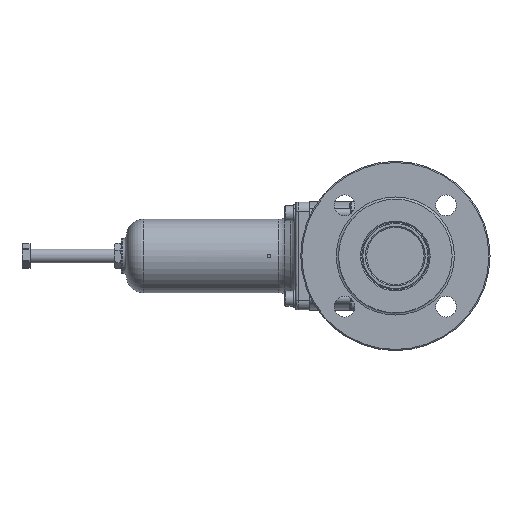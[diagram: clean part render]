
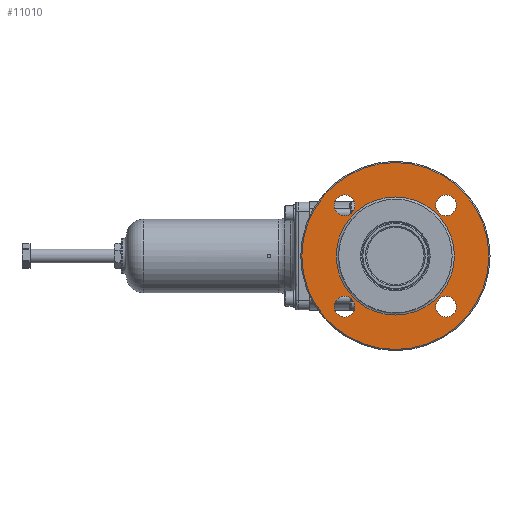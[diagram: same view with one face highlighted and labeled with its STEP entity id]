
A CAD part, left-side view. The second image highlights one B-rep face of the part: STEP entity #11010.
In plain terms, the highlighted planar face has unit normal (-1, 0, 0).
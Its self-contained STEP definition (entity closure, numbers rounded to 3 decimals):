
#326=FACE_BOUND('',#3025,.T.);
#327=FACE_BOUND('',#3026,.T.);
#328=FACE_BOUND('',#3027,.T.);
#329=FACE_BOUND('',#3028,.T.);
#330=FACE_BOUND('',#3029,.T.);
#2331=FACE_OUTER_BOUND('',#3024,.T.);
#3024=EDGE_LOOP('',(#7495));
#3025=EDGE_LOOP('',(#7496));
#3026=EDGE_LOOP('',(#7497));
#3027=EDGE_LOOP('',(#7498));
#3028=EDGE_LOOP('',(#7499));
#3029=EDGE_LOOP('',(#7500));
#3789=CIRCLE('',#11799,81.5);
#3791=CIRCLE('',#11803,51.5);
#3792=CIRCLE('',#11804,9.);
#3793=CIRCLE('',#11805,9.);
#3794=CIRCLE('',#11806,9.);
#3795=CIRCLE('',#11807,9.);
#4426=VERTEX_POINT('',#17257);
#4428=VERTEX_POINT('',#17265);
#4429=VERTEX_POINT('',#17267);
#4430=VERTEX_POINT('',#17269);
#4431=VERTEX_POINT('',#17271);
#4432=VERTEX_POINT('',#17273);
#5621=EDGE_CURVE('',#4426,#4426,#3789,.T.);
#5624=EDGE_CURVE('',#4428,#4428,#3791,.T.);
#5625=EDGE_CURVE('',#4429,#4429,#3792,.T.);
#5626=EDGE_CURVE('',#4430,#4430,#3793,.T.);
#5627=EDGE_CURVE('',#4431,#4431,#3794,.T.);
#5628=EDGE_CURVE('',#4432,#4432,#3795,.T.);
#7495=ORIENTED_EDGE('',*,*,#5621,.F.);
#7496=ORIENTED_EDGE('',*,*,#5624,.F.);
#7497=ORIENTED_EDGE('',*,*,#5625,.T.);
#7498=ORIENTED_EDGE('',*,*,#5626,.T.);
#7499=ORIENTED_EDGE('',*,*,#5627,.T.);
#7500=ORIENTED_EDGE('',*,*,#5628,.T.);
#10720=PLANE('',#11802);
#11010=ADVANCED_FACE('',(#2331,#326,#327,#328,#329,#330),#10720,.T.);
#11799=AXIS2_PLACEMENT_3D('',#17259,#13080,#13081);
#11802=AXIS2_PLACEMENT_3D('',#17264,#13087,#13088);
#11803=AXIS2_PLACEMENT_3D('',#17266,#13089,#13090);
#11804=AXIS2_PLACEMENT_3D('',#17268,#13091,#13092);
#11805=AXIS2_PLACEMENT_3D('',#17270,#13093,#13094);
#11806=AXIS2_PLACEMENT_3D('',#17272,#13095,#13096);
#11807=AXIS2_PLACEMENT_3D('',#17274,#13097,#13098);
#13080=DIRECTION('center_axis',(1.,0.,0.));
#13081=DIRECTION('ref_axis',(0.,0.,1.));
#13087=DIRECTION('center_axis',(-1.,0.,0.));
#13088=DIRECTION('ref_axis',(0.,0.,1.));
#13089=DIRECTION('center_axis',(-1.,0.,0.));
#13090=DIRECTION('ref_axis',(0.,0.,1.));
#13091=DIRECTION('center_axis',(1.,0.,0.));
#13092=DIRECTION('ref_axis',(0.,0.,1.));
#13093=DIRECTION('center_axis',(1.,0.,0.));
#13094=DIRECTION('ref_axis',(0.,1.,0.));
#13095=DIRECTION('center_axis',(1.,0.,0.));
#13096=DIRECTION('ref_axis',(0.,-1.,0.));
#13097=DIRECTION('center_axis',(1.,0.,0.));
#13098=DIRECTION('ref_axis',(0.,0.,-1.));
#17257=CARTESIAN_POINT('',(-113.,0.,-81.5));
#17259=CARTESIAN_POINT('Origin',(-113.,0.,0.));
#17264=CARTESIAN_POINT('Origin',(-113.,0.,0.));
#17265=CARTESIAN_POINT('',(-113.,0.,-51.5));
#17266=CARTESIAN_POINT('Origin',(-113.,0.,0.));
#17267=CARTESIAN_POINT('',(-113.,-44.194,-53.194));
#17268=CARTESIAN_POINT('Origin',(-113.,-44.194,-44.194));
#17269=CARTESIAN_POINT('',(-113.,-53.194,44.194));
#17270=CARTESIAN_POINT('Origin',(-113.,-44.194,44.194));
#17271=CARTESIAN_POINT('',(-113.,53.194,-44.194));
#17272=CARTESIAN_POINT('Origin',(-113.,44.194,-44.194));
#17273=CARTESIAN_POINT('',(-113.,44.194,53.194));
#17274=CARTESIAN_POINT('Origin',(-113.,44.194,44.194));
